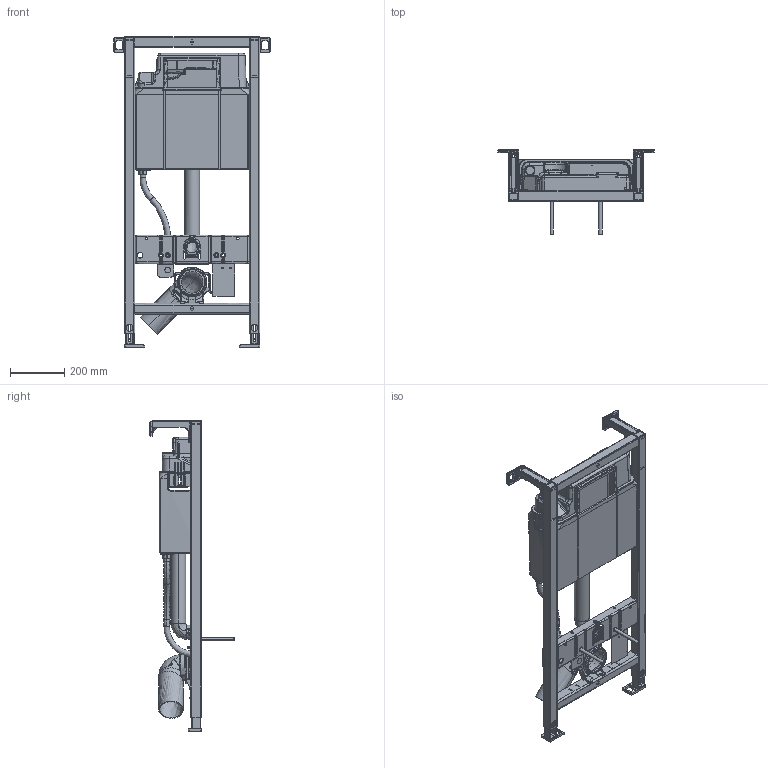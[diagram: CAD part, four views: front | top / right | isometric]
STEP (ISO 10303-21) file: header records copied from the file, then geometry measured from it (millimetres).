
FILE_DESCRIPTION(/* description */ (''),/* implementation_level */ '2;1');
FILE_NAME(/* name */ 'WD1011',/* time_stamp */ '2021-06-29T10:05:20+02:00',/* author */ (''),/* organization */ (''),/* preprocessor_version */ 'ST-DEVELOPER v15',/* originating_system */ '',/* authorisation */ '');
FILE_SCHEMA (('AUTOMOTIVE_DESIGN'));
Products named in the file (2): Document; Block 01
Assembly tree (1 placements, depth 2):
  Document
    Block 01
Bounding box: 577.32 x 311.84 x 1147.5 mm (x, y, z)
Volume: 2316440 mm3; surface area: 2327908.4 mm2
Topology: 30 solids, 41 shells, 7465 faces, 19603 edges, 12150 vertices
Faces by surface type: plane 3735, bspline 3730
Entity records: 336384 total; most frequent: CARTESIAN_POINT 218986, ORIENTED_EDGE 38690, EDGE_CURVE 19477, B_SPLINE_CURVE_WITH_KNOTS 12474, VERTEX_POINT 12150, EDGE_LOOP 7822, ADVANCED_FACE 7465, FACE_OUTER_BOUND 7465
